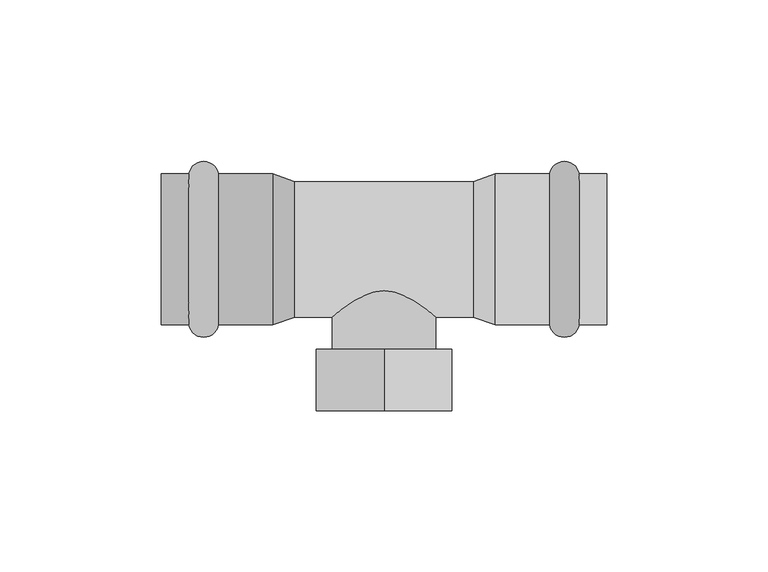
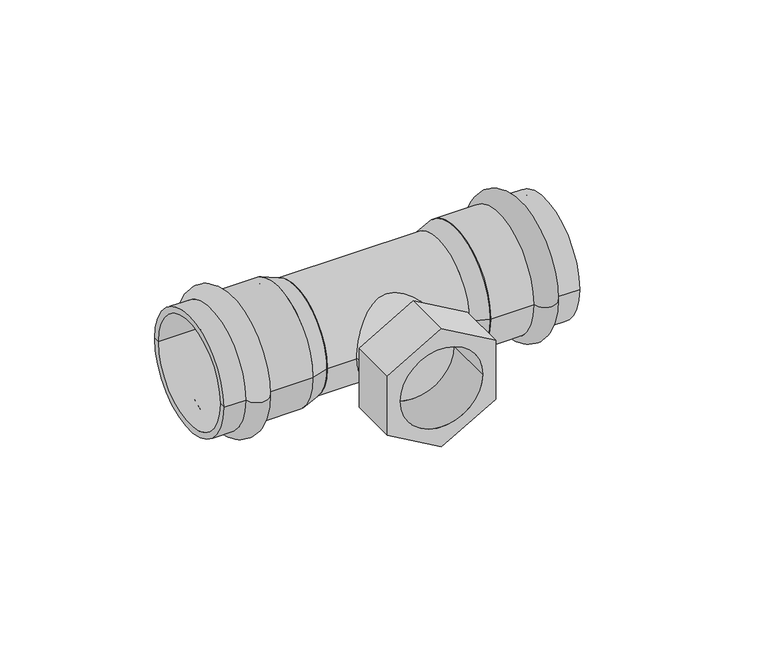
"""IFC4 building model written with IfcOpenShell, lengths in millimetres: pipe fitting geometry, VALTEC_VTi.932.I_Тройник с переходом на внутреннюю резьбу нержавеющая сталь : VTi.932.I."""

import ifcopenshell
import ifcopenshell.guid

model = None  # the IFC model being written
_history = None  # IfcOwnerHistory: only IFC2X3 demands one
_inside = {}  # id of a spatial element -> (the spatial element, [elements in it])
_under = {}  # id of a project, library or spatial element -> (it, [spatial elements below it])
_declared = {}  # id of a project -> (the project, [libraries it declares])
_typed = {}  # id of a type object -> (the type object, [elements of that type])
_made_of = {}  # id of a material, layer set ... -> (it, [elements and type objects made of it])


def new_model(schema):
    """Start an empty IFC model of exactly this schema.

    Asked for "IFC4X3", IfcOpenShell would pick the latest addendum, in which some entities
    have other attributes; the version numbers below select the first issue.
    IFC2X3 requires an IfcOwnerHistory on every rooted entity: one is made here for all.
    """
    global model, _history
    if schema == "IFC4X3":
        model = ifcopenshell.file(schema_version=(4, 3, 0, 0))
    else:
        model = ifcopenshell.file(schema=schema)
    _inside.clear()
    _under.clear()
    _declared.clear()
    _typed.clear()
    _made_of.clear()
    _history = None
    if model.schema == "IFC2X3":
        org = make("IfcOrganization", Name="unknown")
        user = make(
            "IfcPersonAndOrganization",
            ThePerson=make("IfcPerson", FamilyName="unknown"),
            TheOrganization=org,
        )
        app = make(
            "IfcApplication",
            ApplicationDeveloper=org,
            Version="unknown",
            ApplicationFullName="unknown",
            ApplicationIdentifier="unknown",
        )
        _history = make(
            "IfcOwnerHistory",
            OwningUser=user,
            OwningApplication=app,
            ChangeAction="ADDED",
            CreationDate=0,
        )
    return model


def make(cls, **values):
    """One entity of the class cls with the attributes given. An attribute that is None is left unset."""
    return model.create_entity(
        cls, **{name: value for name, value in values.items() if value is not None}
    )


def rooted(cls, **values):
    """An entity with a GlobalId (a new one), such as an element, a storey or a relation."""
    return make(cls, GlobalId=ifcopenshell.guid.new(), OwnerHistory=_history, **values)


def si_unit(unit_type, name, prefix=None):
    """IfcSIUnit, for example si_unit("LENGTHUNIT", "METRE", prefix="MILLI")."""
    return make("IfcSIUnit", UnitType=unit_type, Prefix=prefix, Name=name)


def assignment(units):
    """IfcUnitAssignment: the units of a project."""
    return None if units is None else make("IfcUnitAssignment", Units=units)


def point(xyz):
    """IfcCartesianPoint."""
    return None if xyz is None else make("IfcCartesianPoint", Coordinates=xyz)


def direction(xyz):
    """IfcDirection."""
    return None if xyz is None else make("IfcDirection", DirectionRatios=xyz)


def frame(location, z_axis=None, x_axis=None):
    """IfcAxis2Placement3D, a coordinate frame: its origin and axes. An axis left out is left unset."""
    return make(
        "IfcAxis2Placement3D",
        Location=point(location),
        Axis=direction(z_axis),
        RefDirection=direction(x_axis),
    )


def frame_2d(location, x_axis=None):
    """IfcAxis2Placement2D, a coordinate frame in the plane: its origin and x axis."""
    return make(
        "IfcAxis2Placement2D", Location=point(location), RefDirection=direction(x_axis)
    )


def origin():
    """The frame at (0, 0, 0) with its axes left unset."""
    return frame((0.0, 0.0, 0.0))


def origin_2d():
    """The frame at (0, 0) in the plane with its x axis left unset."""
    return frame_2d((0.0, 0.0))


def place(relative_to, where):
    """IfcLocalPlacement: puts the frame where relative to a parent placement (None: the world)."""
    return make(
        "IfcLocalPlacement", PlacementRelTo=relative_to, RelativePlacement=where
    )


def context(
    kind, dimensions, precision=None, world=None, true_north=None, identifier=None
):
    """IfcGeometricRepresentationContext, for example the 3D "Model" context."""
    return make(
        "IfcGeometricRepresentationContext",
        ContextIdentifier=identifier,
        ContextType=kind,
        CoordinateSpaceDimension=dimensions,
        Precision=precision,
        WorldCoordinateSystem=world,
        TrueNorth=true_north,
    )


def project(units=None, contexts=None):
    """IfcProject with its units and contexts."""
    return rooted(
        "IfcProject",
        Name="project",
        RepresentationContexts=contexts,
        UnitsInContext=assignment(units),
    )


def spatial(cls, under=None, at=None, **own):
    """A site, building, storey or space (cls), placed at a placement, below another one or the project."""
    s = rooted(cls, ObjectPlacement=at, **own)
    if under is not None:
        _under.setdefault(under.id(), (under, []))[1].append(s)
    return s


def polyline(points):
    """IfcPolyline through the points."""
    return make("IfcPolyline", Points=[point(p) for p in points])


def circle_curve(where, radius):
    """IfcCircle in the frame where."""
    return make("IfcCircle", Position=where, Radius=radius)


def ellipse_curve(where, semi_axis1, semi_axis2):
    """IfcEllipse in the frame where."""
    return make(
        "IfcEllipse", Position=where, SemiAxis1=semi_axis1, SemiAxis2=semi_axis2
    )


def trimmed(basis, trim1, trim2, sense, master):
    """IfcTrimmedCurve: the piece of a basis curve between two trims."""
    return make(
        "IfcTrimmedCurve",
        BasisCurve=basis,
        Trim1=trim1,
        Trim2=trim2,
        SenseAgreement=sense,
        MasterRepresentation=master,
    )


def segment(curve, same_sense, transition):
    """IfcCompositeCurveSegment."""
    return make(
        "IfcCompositeCurveSegment",
        Transition=transition,
        SameSense=same_sense,
        ParentCurve=curve,
    )


def composite_curve(segments, self_intersect=None):
    """IfcCompositeCurve: segments joined end to end."""
    return make("IfcCompositeCurve", Segments=segments, SelfIntersect=self_intersect)


def outline(outer, holes=None, kind="AREA"):
    """IfcArbitraryClosedProfileDef: a profile drawn as a closed curve; with holes, ...WithVoids."""
    if holes is None:
        return make("IfcArbitraryClosedProfileDef", ProfileType=kind, OuterCurve=outer)
    return make(
        "IfcArbitraryProfileDefWithVoids",
        ProfileType=kind,
        OuterCurve=outer,
        InnerCurves=holes,
    )


def extrude(swept, where, along, depth):
    """IfcExtrudedAreaSolid: the profile swept, set in the frame where, extruded along a direction by depth."""
    return make(
        "IfcExtrudedAreaSolid",
        SweptArea=swept,
        Position=where,
        ExtrudedDirection=direction(along),
        Depth=depth,
    )


def shape(context_of_items, identifier, shape_type, items):
    """IfcShapeRepresentation: the items that make up one representation, for example the "Body"."""
    return make(
        "IfcShapeRepresentation",
        ContextOfItems=context_of_items,
        RepresentationIdentifier=identifier,
        RepresentationType=shape_type,
        Items=items,
    )


def source(mapping_origin, context_of_items, identifier, shape_type, items):
    """IfcRepresentationMap: a shape defined once, which mapped items show again and again."""
    return make(
        "IfcRepresentationMap",
        MappingOrigin=mapping_origin,
        MappedRepresentation=shape(context_of_items, identifier, shape_type, items),
    )


def transform(
    local_origin,
    x_axis=None,
    y_axis=None,
    z_axis=None,
    scale=None,
    scale2=None,
    scale3=None,
    uniform=True,
):
    """IfcCartesianTransformationOperator3D, or its non-uniform kind. x_axis, y_axis, z_axis: its Axis1, 2, 3."""
    if uniform:
        return make(
            "IfcCartesianTransformationOperator3D",
            Axis1=direction(x_axis),
            Axis2=direction(y_axis),
            LocalOrigin=point(local_origin),
            Scale=scale,
            Axis3=direction(z_axis),
        )
    return make(
        "IfcCartesianTransformationOperator3DnonUniform",
        Axis1=direction(x_axis),
        Axis2=direction(y_axis),
        LocalOrigin=point(local_origin),
        Scale=scale,
        Axis3=direction(z_axis),
        Scale2=scale2,
        Scale3=scale3,
    )


def mapped(mapping_source, mapping_target):
    """IfcMappedItem: shows the shape of a source again, moved by a transform."""
    return make(
        "IfcMappedItem", MappingSource=mapping_source, MappingTarget=mapping_target
    )


def made_of(thing, what):
    """Note that an element or type object is made of a material, layer set ...; save() writes the relation."""
    if what is not None:
        _made_of.setdefault(what.id(), (what, []))[1].append(thing)
    return thing


def element(
    cls,
    number,
    at=None,
    inside=None,
    cuts=None,
    type_object=None,
    material=None,
    context=None,
    identifier="Body",
    shape_type=None,
    held_by="IfcProductDefinitionShape",
    body=None,
    shapes=None,
    **own,
):
    """One element of the class cls, such as IfcWall. Its Tag is "e" and its number.

    at: its placement. inside: the storey or other place that contains it. cuts: it is an
    opening in that element (IfcRelVoidsElement). A single representation is given by context,
    identifier, shape_type and body (its items); several are given by shapes. held_by: the class
    of the entity that holds the representations. save() writes the other relations.
    """
    e = rooted(cls, Tag="e%d" % number, ObjectPlacement=at, **own)
    if body is not None:
        shapes = [shape(context, identifier, shape_type, body)]
    if shapes is not None:
        e.Representation = make(held_by, Representations=shapes)
    if inside is not None:
        _inside.setdefault(inside.id(), (inside, []))[1].append(e)
    if cuts is not None:
        rooted(
            "IfcRelVoidsElement", RelatingBuildingElement=cuts, RelatedOpeningElement=e
        )
    if type_object is not None:
        _typed.setdefault(type_object.id(), (type_object, []))[1].append(e)
    return made_of(e, material)


def aggregate(whole, parts):
    """IfcRelAggregates: a whole, such as a stair, and the parts it consists of."""
    return rooted("IfcRelAggregates", RelatingObject=whole, RelatedObjects=parts)


def save(model, path):
    """Write the relations noted so far, then the file.

    IfcRelAggregates (storeys below a building ...), IfcRelContainedInSpatialStructure (elements
    in a storey), IfcRelDefinesByType, IfcRelAssociatesMaterial and IfcRelDeclares: one each for
    every whole, place, type object, material and project.
    """
    for whole, parts in _under.values():
        aggregate(whole, parts)
    for where, things in _inside.values():
        rooted(
            "IfcRelContainedInSpatialStructure",
            RelatedElements=things,
            RelatingStructure=where,
        )
    for kind, things in _typed.values():
        rooted("IfcRelDefinesByType", RelatedObjects=things, RelatingType=kind)
    for what, things in _made_of.values():
        rooted("IfcRelAssociatesMaterial", RelatedObjects=things, RelatingMaterial=what)
    for by, libraries in _declared.values():
        rooted("IfcRelDeclares", RelatingContext=by, RelatedDefinitions=libraries)
    model.write(path)


def plane_surface(at):
    """IfcPlane: the flat surface through the origin of the frame at, square to its z axis."""
    return make("IfcPlane", Position=at)


def cylinder_surface(at, radius):
    """IfcCylindricalSurface: all points at the distance radius from the z axis of the frame at."""
    return make("IfcCylindricalSurface", Position=at, Radius=radius)


def revolved_surface(curve, axis_point, axis_direction):
    """IfcSurfaceOfRevolution: the curve turned about the line through axis_point along axis_direction."""
    return make(
        "IfcSurfaceOfRevolution",
        SweptCurve=make("IfcArbitraryOpenProfileDef", ProfileType="CURVE", Curve=curve),
        AxisPosition=make("IfcAxis1Placement", Location=point(axis_point), Axis=direction(axis_direction)),
    )


def advanced_brep(points, edges, surfaces, faces):
    """IfcAdvancedBrep: a solid bounded by faces that lie on surfaces and meet in shared edges.

    An edge is (start, end): straight between two places in points (the first is 0);
    or (start, end, curve); or (start, end, curve, False) where it runs against its curve.
    A face is (place in surfaces, loops), or (place, loops, False) where it looks against
    its surface's normal. A loop lists edges by number (the first is 1), with a minus sign
    where the edge is run from its end to its start. The first loop is the outer one.
    """
    corners = [point(p) for p in points]
    vertices = [make("IfcVertexPoint", VertexGeometry=c) for c in corners]
    made = []
    for start, end, *more in edges:
        made.append(
            make(
                "IfcEdgeCurve",
                EdgeStart=vertices[start],
                EdgeEnd=vertices[end],
                EdgeGeometry=more[0] if more else make("IfcPolyline", Points=[corners[start], corners[end]]),
                SameSense=more[1] if len(more) > 1 else True,
            )
        )
    hull = []
    for where, loops, *sense in faces:
        bounds = []
        for j, loop in enumerate(loops):
            ring = [make("IfcOrientedEdge", EdgeElement=made[abs(k) - 1], Orientation=k > 0) for k in loop]
            bounds.append(
                make(
                    "IfcFaceOuterBound" if j == 0 else "IfcFaceBound",
                    Bound=make("IfcEdgeLoop", EdgeList=ring),
                    Orientation=True,
                )
            )
        hull.append(make("IfcAdvancedFace", Bounds=bounds, FaceSurface=surfaces[where], SameSense=sense[0] if sense else True))
    return make("IfcAdvancedBrep", Outer=make("IfcClosedShell", CfsFaces=hull))


def pipe_fitting_a7ffec78(model_context):
    return source(origin(), model_context, "Body", "SolidModel", [
        advanced_brep(
        [(60.4464272, 23.35, 0.0), (60.4464272, -23.35, 0.0), (51.3535728, -23.35, 0.0), (51.3535728, 23.35, 0.0), (69.0, 23.35, 0.0), (69.0, -23.35, 0.0), (69.0, 21.0, 0.0), (69.0, -21.0, 0.0), (34.5, 21.0, 0.0), (34.5, -21.0, 0.0), (34.5, 23.35, 0.0), (34.5, -23.35, 0.0)],
        [
            (0, 1, circle_curve(frame((60.4464272, 0.0, 0.0), z_axis=(-1.0, 0.0, 0.0), x_axis=(0.0, -1.0, 0.0)), 23.35)),
            (1, 2, circle_curve(frame((55.9, -22.65, 0.0), z_axis=(0.0, 0.0, -1.0), x_axis=(-1.0, 0.0, 0.0)), 4.6)),
            (2, 3, circle_curve(frame((51.3535728, 0.0, 0.0), z_axis=(1.0, 0.0, 0.0), x_axis=(0.0, -1.0, 0.0)), 23.35)),
            (3, 0, circle_curve(frame((55.9, 22.65, 0.0), z_axis=(0.0, 0.0, -1.0), x_axis=(-1.0, 0.0, 0.0)), 4.6)),
            (1, 0, circle_curve(frame((60.4464272, 0.0, 0.0), z_axis=(-1.0, 0.0, 0.0), x_axis=(0.0, -1.0, 0.0)), 23.35)),
            (3, 2, circle_curve(frame((51.3535728, 0.0, 0.0), z_axis=(1.0, 0.0, 0.0), x_axis=(0.0, -1.0, 0.0)), 23.35)),
            (4, 5, circle_curve(frame((69.0, 0.0, 0.0), z_axis=(-1.0, 0.0, 0.0), x_axis=(0.0, -1.0, 0.0)), 23.35)),
            (5, 1),
            (0, 4),
            (5, 4, circle_curve(frame((69.0, 0.0, 0.0), z_axis=(-1.0, 0.0, 0.0), x_axis=(0.0, -1.0, 0.0)), 23.35)),
            (6, 7, circle_curve(frame((69.0, 0.0, 0.0), z_axis=(-1.0, 0.0, 0.0), x_axis=(0.0, -1.0, 0.0)), 21.0)),
            (7, 5),
            (4, 6),
            (7, 6, circle_curve(frame((69.0, 0.0, 0.0), z_axis=(-1.0, 0.0, 0.0), x_axis=(0.0, -1.0, 0.0)), 21.0)),
            (8, 9, circle_curve(frame((34.5, 0.0, 0.0), z_axis=(-1.0, 0.0, 0.0), x_axis=(0.0, -1.0, 0.0)), 21.0)),
            (9, 7),
            (6, 8),
            (9, 8, circle_curve(frame((34.5, 0.0, 0.0), z_axis=(-1.0, 0.0, 0.0), x_axis=(0.0, -1.0, 0.0)), 21.0)),
            (10, 11, circle_curve(frame((34.5, 0.0, 0.0), z_axis=(-1.0, 0.0, 0.0), x_axis=(0.0, -1.0, 0.0)), 23.35)),
            (11, 9),
            (8, 10),
            (11, 10, circle_curve(frame((34.5, 0.0, 0.0), z_axis=(-1.0, 0.0, 0.0), x_axis=(0.0, -1.0, 0.0)), 23.35)),
            (2, 11),
            (10, 3),
        ],
        [
            revolved_surface(trimmed(ellipse_curve(frame((55.9, -22.65, 0.0), z_axis=(0.0, 0.0, 1.0), x_axis=(-1.0, 0.0, 0.0)), 4.6, 4.6), [point((51.3535728, -23.35, 0.0))], [point((60.4464272, -23.35, 0.0))], True, "CARTESIAN"), (72.5364426, 0.0, 0.0), (1.0, 0.0, 0.0)),
            cylinder_surface(frame((72.5364426, 0.0, 0.0), z_axis=(1.0, 0.0, 0.0), x_axis=(0.0, -1.0, 0.0)), 23.35),
            plane_surface(frame((69.0, 0.0, 0.0), z_axis=(1.0, 0.0, 0.0), x_axis=(0.0, -1.0, 0.0))),
            revolved_surface(polyline([(69.0, -21.0, 0.0), (34.5, -21.0, 0.0)]), (72.5364426, 0.0, 0.0), (1.0, 0.0, 0.0)),
            plane_surface(frame((34.5, 0.0, 0.0), z_axis=(-1.0, 0.0, 0.0), x_axis=(0.0, -1.0, 0.0))),
        ],
        [
            (0, [[1, 2, 3, 4]]),
            (0, [[5, -4, 6, -2]]),
            (1, [[7, 8, -1, 9]]),
            (1, [[10, -9, -5, -8]]),
            (2, [[11, 12, -7, 13]]),
            (2, [[14, -13, -10, -12]]),
            (3, [[15, 16, -11, 17]]),
            (3, [[18, -17, -14, -16]]),
            (4, [[19, 20, -15, 21]]),
            (4, [[22, -21, -18, -20]]),
            (1, [[-3, 23, -19, 24]]),
            (1, [[-6, -24, -22, -23]]),
        ],
    ),
        advanced_brep(
        [(-60.4464272, -23.35, 0.0), (-60.4464272, 23.35, 0.0), (-51.3535728, 23.35, 0.0), (-51.3535728, -23.35, 0.0), (-69.0, -23.35, 0.0), (-69.0, 23.35, 0.0), (-69.0, -21.0, 0.0), (-69.0, 21.0, 0.0), (-34.5, -21.0, 0.0), (-34.5, 21.0, 0.0), (-34.5, -23.35, 0.0), (-34.5, 23.35, 0.0)],
        [
            (0, 1, circle_curve(frame((-60.4464272, 0.0, 0.0), z_axis=(1.0, 0.0, 0.0), x_axis=(0.0, 1.0, 0.0)), 23.35)),
            (1, 2, circle_curve(frame((-55.9, 22.65, 0.0), z_axis=(0.0, 0.0, -1.0), x_axis=(1.0, 0.0, 0.0)), 4.6)),
            (2, 3, circle_curve(frame((-51.3535728, 0.0, 0.0), z_axis=(-1.0, 0.0, 0.0), x_axis=(0.0, 1.0, 0.0)), 23.35)),
            (3, 0, circle_curve(frame((-55.9, -22.65, 0.0), z_axis=(0.0, 0.0, -1.0), x_axis=(1.0, 0.0, 0.0)), 4.6)),
            (1, 0, circle_curve(frame((-60.4464272, 0.0, 0.0), z_axis=(1.0, 0.0, 0.0), x_axis=(0.0, 1.0, 0.0)), 23.35)),
            (3, 2, circle_curve(frame((-51.3535728, 0.0, 0.0), z_axis=(-1.0, 0.0, 0.0), x_axis=(0.0, 1.0, 0.0)), 23.35)),
            (4, 5, circle_curve(frame((-69.0, 0.0, 0.0), z_axis=(1.0, 0.0, 0.0), x_axis=(0.0, 1.0, 0.0)), 23.35)),
            (5, 1),
            (0, 4),
            (5, 4, circle_curve(frame((-69.0, 0.0, 0.0), z_axis=(1.0, 0.0, 0.0), x_axis=(0.0, 1.0, 0.0)), 23.35)),
            (6, 7, circle_curve(frame((-69.0, 0.0, 0.0), z_axis=(1.0, 0.0, 0.0), x_axis=(0.0, 1.0, 0.0)), 21.0)),
            (7, 5),
            (4, 6),
            (7, 6, circle_curve(frame((-69.0, 0.0, 0.0), z_axis=(1.0, 0.0, 0.0), x_axis=(0.0, 1.0, 0.0)), 21.0)),
            (8, 9, circle_curve(frame((-34.5, 0.0, 0.0), z_axis=(1.0, 0.0, 0.0), x_axis=(0.0, 1.0, 0.0)), 21.0)),
            (9, 7),
            (6, 8),
            (9, 8, circle_curve(frame((-34.5, 0.0, 0.0), z_axis=(1.0, 0.0, 0.0), x_axis=(0.0, 1.0, 0.0)), 21.0)),
            (10, 11, circle_curve(frame((-34.5, 0.0, 0.0), z_axis=(1.0, 0.0, 0.0), x_axis=(0.0, 1.0, 0.0)), 23.35)),
            (11, 9),
            (8, 10),
            (11, 10, circle_curve(frame((-34.5, 0.0, 0.0), z_axis=(1.0, 0.0, 0.0), x_axis=(0.0, 1.0, 0.0)), 23.35)),
            (2, 11),
            (10, 3),
        ],
        [
            revolved_surface(trimmed(ellipse_curve(frame((-55.9, 22.65, 0.0), z_axis=(0.0, 0.0, 1.0), x_axis=(1.0, 0.0, 0.0)), 4.6, 4.6), [point((-51.3535728, 23.35, 0.0))], [point((-60.4464272, 23.35, 0.0))], True, "CARTESIAN"), (-72.5364426, 0.0, 0.0), (-1.0, 0.0, 0.0)),
            cylinder_surface(frame((-72.5364426, 0.0, 0.0), z_axis=(-1.0, 0.0, 0.0), x_axis=(0.0, 1.0, 0.0)), 23.35),
            plane_surface(frame((-69.0, 0.0, 0.0), z_axis=(-1.0, 0.0, 0.0), x_axis=(0.0, 1.0, 0.0))),
            revolved_surface(polyline([(-69.0, 21.0, 0.0), (-34.5, 21.0, 0.0)]), (-72.5364426, 0.0, 0.0), (-1.0, 0.0, 0.0)),
            plane_surface(frame((-34.5, 0.0, 0.0), z_axis=(1.0, 0.0, 0.0), x_axis=(0.0, 1.0, 0.0))),
        ],
        [
            (0, [[1, 2, 3, 4]]),
            (0, [[5, -4, 6, -2]]),
            (1, [[7, 8, -1, 9]]),
            (1, [[10, -9, -5, -8]]),
            (2, [[11, 12, -7, 13]]),
            (2, [[14, -13, -10, -12]]),
            (3, [[15, 16, -11, 17]]),
            (3, [[18, -17, -14, -16]]),
            (4, [[19, 20, -15, 21]]),
            (4, [[22, -21, -18, -20]]),
            (1, [[-3, 23, -19, 24]]),
            (1, [[-6, -24, -22, -23]]),
        ],
    ),
        extrude(outline(polyline([(24.2487113, 0.0), (12.1243557, -21.0), (-12.1243557, -21.0), (-24.2487113, 0.0), (-12.1243557, 21.0), (12.1243557, 21.0), (24.2487113, 0.0)]), holes=[composite_curve([segment(trimmed(circle_curve(origin_2d(), 16.0), [point((0.0, -16.0))], [point((0.0, 16.0))], True, "CARTESIAN"), True, "CONTINUOUS"), segment(trimmed(circle_curve(origin_2d(), 16.0), [point((0.0, 16.0))], [point((0.0, -16.0))], True, "CARTESIAN"), True, "CONTINUOUS")], self_intersect=False)]), frame((0.0, -50.0, 0.0), z_axis=(0.0, 1.0, 0.0), x_axis=(0.0, 0.0, 1.0)), (0.0, 0.0, 1.0), 19.0),
        extrude(outline(composite_curve([segment(trimmed(circle_curve(origin_2d(), 16.0), [point((0.0, -16.0))], [point((0.0, 16.0))], False, "CARTESIAN"), True, "CONTINUOUS"), segment(trimmed(circle_curve(origin_2d(), 16.0), [point((0.0, 16.0))], [point((0.0, -16.0))], False, "CARTESIAN"), True, "CONTINUOUS")], self_intersect=False)), frame((0.0, -31.0, 0.0), z_axis=(0.0, 1.0, 0.0), x_axis=(0.0, 0.0, 1.0)), (0.0, 0.0, 1.0), 31.0),
        extrude(outline(composite_curve([segment(trimmed(circle_curve(origin_2d(), 21.0), [point((-21.0, 0.0))], [point((21.0, 0.0))], False, "CARTESIAN"), True, "CONTINUOUS"), segment(trimmed(circle_curve(origin_2d(), 21.0), [point((21.0, 0.0))], [point((-21.0, 0.0))], False, "CARTESIAN"), True, "CONTINUOUS")], self_intersect=False)), frame((-27.6, 0.0, 0.0), z_axis=(1.0, 0.0, 0.0), x_axis=(0.0, 1.0, 0.0)), (0.0, 0.0, 1.0), 55.2),
        advanced_brep(
        [(34.5, -23.35, 0.0), (34.5, 23.35, 0.0), (27.6, -21.0, 0.0), (27.6, 21.0, 0.0)],
        [
            (0, 1, circle_curve(frame((34.5, 0.0, 0.0), z_axis=(1.0, 0.0, 0.0), x_axis=(0.0, -1.0, 0.0)), 23.35)),
            (1, 0, circle_curve(frame((34.5, 0.0, 0.0), z_axis=(1.0, 0.0, 0.0), x_axis=(0.0, 1.0, 0.0)), 23.35)),
            (2, 3, circle_curve(frame((27.6, 0.0, 0.0), z_axis=(-1.0, 0.0, 0.0), x_axis=(0.0, 1.0, 0.0)), 21.0)),
            (3, 2, circle_curve(frame((27.6, 0.0, 0.0), z_axis=(-1.0, 0.0, 0.0), x_axis=(0.0, -1.0, 0.0)), 21.0)),
            (3, 1),
            (0, 2),
        ],
        [
            plane_surface(frame((34.5, 0.0, 0.0), z_axis=(1.0, 0.0, 0.0), x_axis=(0.0, 0.0, 1.0))),
            plane_surface(frame((27.6, 0.0, 0.0), z_axis=(-1.0, 0.0, 0.0), x_axis=(0.0, 0.0, 1.0))),
            revolved_surface(polyline([(27.6, 21.00000000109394, 0.0), (34.5, 23.35, 0.0)]), (-34.0595745, 0.0, 0.0), (1.0, 0.0, 0.0)),
            revolved_surface(polyline([(27.6, -21.00000000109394, 0.0), (34.5, -23.35, 0.0)]), (-34.0595745, 0.0, 0.0), (1.0, 0.0, 0.0)),
        ],
        [
            (0, [[1, 2]]),
            (1, [[3, 4]]),
            (2, [[-4, 5, -1, 6]]),
            (3, [[-3, -6, -2, -5]]),
        ],
    ),
        advanced_brep(
        [(-34.5, -23.35, 0.0), (-34.5, 23.35, 0.0), (-27.6, -21.0, 0.0), (-27.6, 21.0, 0.0)],
        [
            (0, 1, circle_curve(frame((-34.5, 0.0, 0.0), z_axis=(-1.0, 0.0, 0.0), x_axis=(0.0, -1.0, 0.0)), 23.35)),
            (1, 0, circle_curve(frame((-34.5, 0.0, 0.0), z_axis=(-1.0, 0.0, 0.0), x_axis=(0.0, 1.0, 0.0)), 23.35)),
            (2, 3, circle_curve(frame((-27.6, 0.0, 0.0), z_axis=(1.0, 0.0, 0.0), x_axis=(0.0, 1.0, 0.0)), 21.0)),
            (3, 2, circle_curve(frame((-27.6, 0.0, 0.0), z_axis=(1.0, 0.0, 0.0), x_axis=(0.0, -1.0, 0.0)), 21.0)),
            (2, 0),
            (1, 3),
        ],
        [
            plane_surface(frame((-34.5, 0.0, 0.0), z_axis=(-1.0, 0.0, 0.0), x_axis=(0.0, 0.0, -1.0))),
            plane_surface(frame((-27.6, 0.0, 0.0), z_axis=(1.0, 0.0, 0.0), x_axis=(0.0, 0.0, -1.0))),
            revolved_surface(polyline([(-27.6, -21.00000000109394, 0.0), (-34.5, -23.35, 0.0)]), (34.0595745, 0.0, 0.0), (-1.0, 0.0, 0.0)),
            revolved_surface(polyline([(-27.6, 21.00000000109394, 0.0), (-34.5, 23.35, 0.0)]), (34.0595745, 0.0, 0.0), (-1.0, 0.0, 0.0)),
        ],
        [
            (0, [[1, 2]]),
            (1, [[3, 4]]),
            (2, [[-3, 5, -2, 6]]),
            (3, [[-4, -6, -1, -5]]),
        ],
    ),
    ])


if __name__ == "__main__":
    model = new_model("IFC4")
    model_context = context("Model", 3, world=origin())
    ifc_project = project(units=[si_unit("LENGTHUNIT", "METRE", prefix="MILLI")], contexts=[model_context])
    site = spatial("IfcSite", under=ifc_project)
    building = spatial("IfcBuilding", under=site)
    placement = place(None, origin())
    pipe_fitting_shape = pipe_fitting_a7ffec78(model_context)
    element("IfcPipeFitting", 1, ObjectType="VALTEC_VTi.932.I_Тройник с переходом на внутреннюю резьбу нержавеющая сталь : VTi.932.I", at=placement, inside=building, context=model_context, shape_type="MappedRepresentation", body=[
        mapped(pipe_fitting_shape, transform((0.0, 0.0, 0.0), x_axis=(1.0, 0.0, 0.0), y_axis=(0.0, 1.0, 0.0), z_axis=(0.0, 0.0, 1.0))),
    ])
    save(model, "model.ifc")
